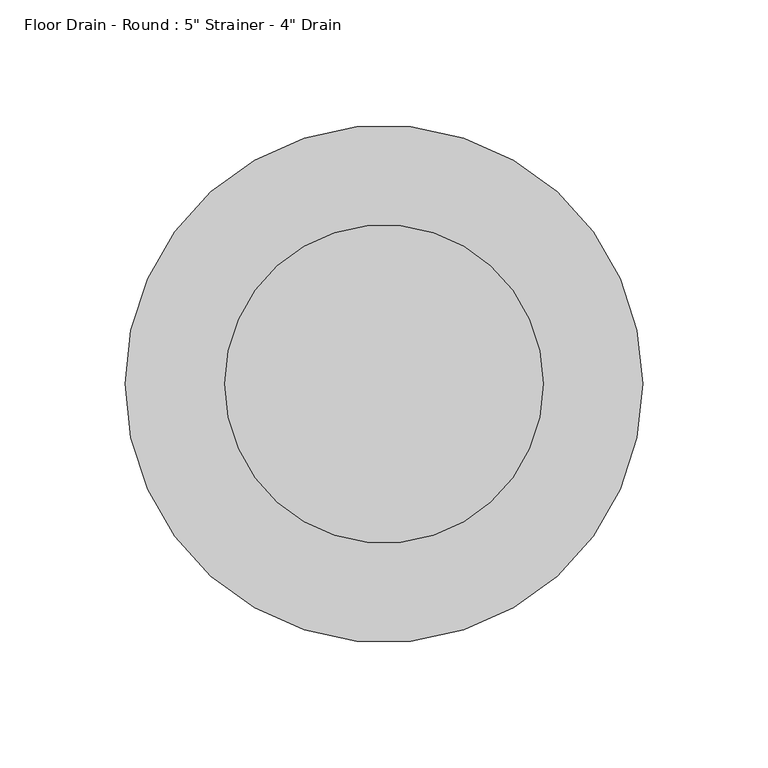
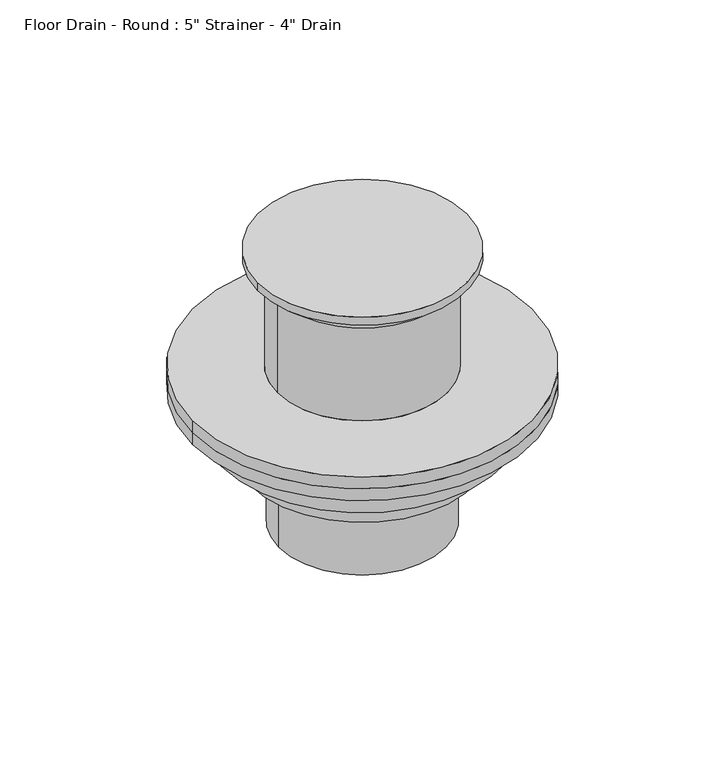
"""IFC4 building model written with IfcOpenShell, lengths in millimetres: flow terminal geometry."""

from ifc_helpers import new_model, si_unit, frame, origin, place, context, project, spatial, polyline, circle_curve, source, transform, mapped, element, save
from ifc_brep_helpers import plane_surface, cylinder_surface, revolved_surface, advanced_brep


def flow_terminal_15068827(model_context):
    return source(origin(), model_context, "Body", "AdvancedBrep", [
        advanced_brep(
        [(103.1875, 0.0, -74.93), (-103.1875, 0.0, -74.93), (-51.59375, 0.0, -74.93), (51.59375, 0.0, -74.93), (103.1875, 0.0, -82.55), (-103.1875, 0.0, -82.55), (51.59375, 0.0, -15.24), (-51.59375, 0.0, -15.24), (63.5, 0.0, -5.08), (-63.5, 0.0, -5.08), (63.5, 0.0, 0.0), (-63.5, 0.0, 0.0)],
        [
            (0, 1, circle_curve(frame((0.0, 0.0, -74.93), z_axis=(0.0, 0.0, 1.0), x_axis=(-1.0, 0.0, 0.0)), 103.1875)),
            (1, 0, circle_curve(frame((0.0, 0.0, -74.93), z_axis=(0.0, 0.0, 1.0), x_axis=(-1.0, 0.0, 0.0)), 103.1875)),
            (2, 3, circle_curve(frame((0.0, 0.0, -74.93), z_axis=(0.0, 0.0, -1.0), x_axis=(-1.0, 0.0, 0.0)), 51.59375)),
            (3, 2, circle_curve(frame((0.0, 0.0, -74.93), z_axis=(0.0, 0.0, -1.0), x_axis=(-1.0, 0.0, 0.0)), 51.59375)),
            (4, 5, circle_curve(frame((0.0, 0.0, -82.55), z_axis=(0.0, 0.0, -1.0), x_axis=(-1.0, 0.0, 0.0)), 103.1875)),
            (5, 4, circle_curve(frame((0.0, 0.0, -82.55), z_axis=(0.0, 0.0, -1.0), x_axis=(-1.0, 0.0, 0.0)), 103.1875)),
            (1, 5),
            (4, 0),
            (6, 7, circle_curve(frame((0.0, 0.0, -15.24), z_axis=(0.0, 0.0, -1.0), x_axis=(-1.0, 0.0, 0.0)), 51.59375)),
            (7, 2),
            (3, 6),
            (7, 6, circle_curve(frame((0.0, 0.0, -15.24), z_axis=(0.0, 0.0, -1.0), x_axis=(-1.0, 0.0, 0.0)), 51.59375)),
            (6, 8),
            (8, 9, circle_curve(frame((0.0, 0.0, -5.08), z_axis=(0.0, 0.0, -1.0), x_axis=(-1.0, 0.0, 0.0)), 63.5)),
            (9, 7),
            (9, 8, circle_curve(frame((0.0, 0.0, -5.08), z_axis=(0.0, 0.0, -1.0), x_axis=(-1.0, 0.0, 0.0)), 63.5)),
            (10, 11, circle_curve(frame((0.0, 0.0, 0.0), z_axis=(0.0, 0.0, 1.0), x_axis=(-1.0, 0.0, 0.0)), 63.5)),
            (11, 10, circle_curve(frame((0.0, 0.0, 0.0), z_axis=(0.0, 0.0, 1.0), x_axis=(-1.0, 0.0, 0.0)), 63.5)),
            (11, 9),
            (8, 10),
        ],
        [
            plane_surface(frame((-103.1875, 0.0, -74.93), z_axis=(0.0, 0.0, 1.0), x_axis=(0.0, 1.0, 0.0))),
            plane_surface(frame((-103.1875, 0.0, -82.55), z_axis=(0.0, 0.0, -1.0), x_axis=(0.0, -1.0, 0.0))),
            cylinder_surface(frame((0.0, 0.0, -82.55), z_axis=(0.0, 0.0, 1.0), x_axis=(-1.0, 0.0, 0.0)), 103.1875),
            cylinder_surface(frame((0.0, 0.0, -74.93), z_axis=(0.0, 0.0, 1.0), x_axis=(-1.0, 0.0, 0.0)), 51.59375),
            revolved_surface(polyline([(-63.5, 0.0, -5.08), (-51.59375, 0.0, -15.24)]), (0.0, 0.0, 44.45), (0.0, 0.0, -1.0)),
            plane_surface(frame((-63.5, 0.0, 0.0), z_axis=(0.0, 0.0, 1.0), x_axis=(0.0, 1.0, 0.0))),
            cylinder_surface(frame((0.0, 0.0, -5.08), z_axis=(0.0, 0.0, 1.0), x_axis=(-1.0, 0.0, 0.0)), 63.5),
        ],
        [
            (0, [[1, 2], [3, 4]]),
            (1, [[5, 6]]),
            (2, [[7, -5, 8, -2]]),
            (2, [[-8, -6, -7, -1]]),
            (3, [[9, 10, -4, 11]]),
            (3, [[-3, -10, 12, -11]]),
            (4, [[-9, 13, 14, 15]]),
            (4, [[16, -13, -12, -15]]),
            (5, [[17, 18]]),
            (6, [[19, -14, 20, -18]]),
            (6, [[-20, -16, -19, -17]]),
        ],
    ),
        advanced_brep(
        [(50.8, 0.0, -174.625), (-50.8, 0.0, -174.625), (50.8, 0.0, -128.5875), (-50.8, 0.0, -128.5875), (68.2625, 0.0, -128.5875), (-68.2625, 0.0, -128.5875), (68.2625, 0.0, -110.1725), (-68.2625, 0.0, -110.1725), (85.725, 0.0, -110.1725), (-85.725, 0.0, -110.1725), (85.725, 0.0, -90.17), (-85.725, 0.0, -90.17), (103.1875, 0.0, -82.55), (-103.1875, 0.0, -82.55), (103.1875, 0.0, -90.17), (-103.1875, 0.0, -90.17)],
        [
            (0, 1, circle_curve(frame((0.0, 0.0, -174.625), z_axis=(0.0, 0.0, -1.0), x_axis=(-1.0, 0.0, 0.0)), 50.8)),
            (1, 0, circle_curve(frame((0.0, 0.0, -174.625), z_axis=(0.0, 0.0, -1.0), x_axis=(-1.0, 0.0, 0.0)), 50.8)),
            (0, 2),
            (2, 3, circle_curve(frame((0.0, 0.0, -128.5875), z_axis=(0.0, 0.0, -1.0), x_axis=(-1.0, 0.0, 0.0)), 50.8)),
            (3, 1),
            (3, 2, circle_curve(frame((0.0, 0.0, -128.5875), z_axis=(0.0, 0.0, -1.0), x_axis=(-1.0, 0.0, 0.0)), 50.8)),
            (4, 5, circle_curve(frame((0.0, 0.0, -128.5875), z_axis=(0.0, 0.0, -1.0), x_axis=(-1.0, 0.0, 0.0)), 68.2625)),
            (5, 4, circle_curve(frame((0.0, 0.0, -128.5875), z_axis=(0.0, 0.0, -1.0), x_axis=(-1.0, 0.0, 0.0)), 68.2625)),
            (4, 6),
            (6, 7, circle_curve(frame((0.0, 0.0, -110.1725), z_axis=(0.0, 0.0, -1.0), x_axis=(-1.0, 0.0, 0.0)), 68.2625)),
            (7, 5),
            (7, 6, circle_curve(frame((0.0, 0.0, -110.1725), z_axis=(0.0, 0.0, -1.0), x_axis=(-1.0, 0.0, 0.0)), 68.2625)),
            (8, 9, circle_curve(frame((0.0, 0.0, -110.1725), z_axis=(0.0, 0.0, -1.0), x_axis=(-1.0, 0.0, 0.0)), 85.725)),
            (9, 8, circle_curve(frame((0.0, 0.0, -110.1725), z_axis=(0.0, 0.0, -1.0), x_axis=(-1.0, 0.0, 0.0)), 85.725)),
            (8, 10),
            (10, 11, circle_curve(frame((0.0, 0.0, -90.17), z_axis=(0.0, 0.0, -1.0), x_axis=(-1.0, 0.0, 0.0)), 85.725)),
            (11, 9),
            (11, 10, circle_curve(frame((0.0, 0.0, -90.17), z_axis=(0.0, 0.0, -1.0), x_axis=(-1.0, 0.0, 0.0)), 85.725)),
            (12, 13, circle_curve(frame((0.0, 0.0, -82.55), z_axis=(0.0, 0.0, 1.0), x_axis=(-1.0, 0.0, 0.0)), 103.1875)),
            (13, 12, circle_curve(frame((0.0, 0.0, -82.55), z_axis=(0.0, 0.0, 1.0), x_axis=(-1.0, 0.0, 0.0)), 103.1875)),
            (14, 15, circle_curve(frame((0.0, 0.0, -90.17), z_axis=(0.0, 0.0, -1.0), x_axis=(-1.0, 0.0, 0.0)), 103.1875)),
            (15, 14, circle_curve(frame((0.0, 0.0, -90.17), z_axis=(0.0, 0.0, -1.0), x_axis=(-1.0, 0.0, 0.0)), 103.1875)),
            (13, 15),
            (14, 12),
        ],
        [
            plane_surface(frame((-50.8, 0.0, -174.625), z_axis=(0.0, 0.0, -1.0), x_axis=(0.0, -1.0, 0.0))),
            cylinder_surface(frame((0.0, 0.0, -174.625), z_axis=(0.0, 0.0, 1.0), x_axis=(-1.0, 0.0, 0.0)), 50.8),
            plane_surface(frame((-68.2625, 0.0, -128.5875), z_axis=(0.0, 0.0, -1.0), x_axis=(0.0, -1.0, 0.0))),
            cylinder_surface(frame((0.0, 0.0, -128.5875), z_axis=(0.0, 0.0, 1.0), x_axis=(-1.0, 0.0, 0.0)), 68.2625),
            plane_surface(frame((-85.725, 0.0, -110.1725), z_axis=(0.0, 0.0, -1.0), x_axis=(0.0, -1.0, 0.0))),
            cylinder_surface(frame((0.0, 0.0, -110.1725), z_axis=(0.0, 0.0, 1.0), x_axis=(-1.0, 0.0, 0.0)), 85.725),
            plane_surface(frame((-103.1875, 0.0, -82.55), z_axis=(0.0, 0.0, 1.0), x_axis=(0.0, 1.0, 0.0))),
            plane_surface(frame((-103.1875, 0.0, -90.17), z_axis=(0.0, 0.0, -1.0), x_axis=(0.0, -1.0, 0.0))),
            cylinder_surface(frame((0.0, 0.0, -90.17), z_axis=(0.0, 0.0, 1.0), x_axis=(-1.0, 0.0, 0.0)), 103.1875),
        ],
        [
            (0, [[1, 2]]),
            (1, [[3, 4, 5, -1]]),
            (1, [[-5, 6, -3, -2]]),
            (2, [[7, 8], [-6, -4]]),
            (3, [[9, 10, 11, -7]]),
            (3, [[-11, 12, -9, -8]]),
            (4, [[13, 14], [-12, -10]]),
            (5, [[15, 16, 17, -13]]),
            (5, [[-17, 18, -15, -14]]),
            (6, [[19, 20]]),
            (7, [[21, 22], [-18, -16]]),
            (8, [[23, -21, 24, -20]]),
            (8, [[-24, -22, -23, -19]]),
        ],
    ),
    ])


if __name__ == "__main__":
    model = new_model("IFC4")
    model_context = context("Model", 3, world=origin())
    ifc_project = project(units=[si_unit("LENGTHUNIT", "METRE", prefix="MILLI")], contexts=[model_context])
    site = spatial("IfcSite", under=ifc_project)
    building = spatial("IfcBuilding", under=site)
    placement = place(None, origin())
    flow_terminal_shape = flow_terminal_15068827(model_context)
    element("IfcFlowTerminal", 1, ObjectType="Floor Drain - Round : 5\" Strainer - 4\" Drain", at=placement, inside=building, context=model_context, shape_type="MappedRepresentation", body=[
        mapped(flow_terminal_shape, transform((0.0, 0.0, 0.0), x_axis=(1.0, 0.0, 0.0), y_axis=(0.0, 1.0, 0.0), z_axis=(0.0, 0.0, 1.0))),
    ])
    save(model, "model.ifc")
